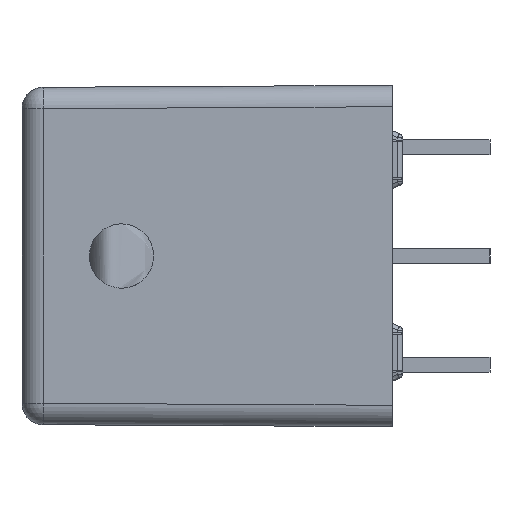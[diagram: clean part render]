
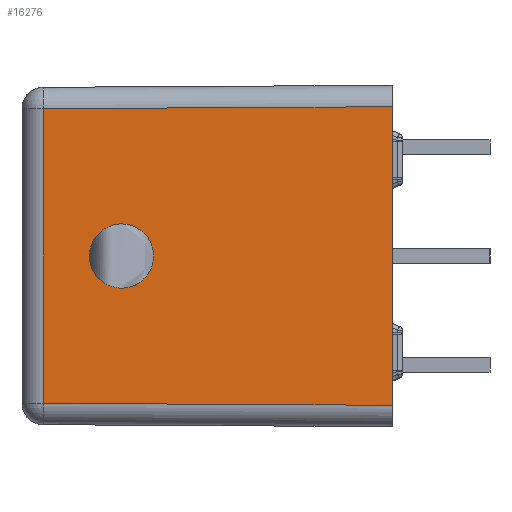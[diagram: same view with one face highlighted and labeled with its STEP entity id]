
A CAD part, left-side view. The second image highlights one B-rep face of the part: STEP entity #16276.
In plain terms, the highlighted planar face has unit normal (-1, 0.006, 0).
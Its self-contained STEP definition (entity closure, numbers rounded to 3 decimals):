
#194 = DIRECTION ( 'NONE',  ( 0., 0., -1. ) ) ;
#844 = ORIENTED_EDGE ( 'NONE', *, *, #24406, .F. ) ;
#1738 = FACE_OUTER_BOUND ( 'NONE', #25778, .T. ) ;
#3607 = EDGE_CURVE ( 'NONE', #22099, #16849, #11925, .T. ) ;
#4160 = DIRECTION ( 'NONE',  ( -1., 0.006, 0. ) ) ;
#7147 = VECTOR ( 'NONE', #19251, 1000. ) ;
#7396 = CARTESIAN_POINT ( 'NONE',  ( -28.925, 8.85, -6.975 ) ) ;
#7401 = ORIENTED_EDGE ( 'NONE', *, *, #24283, .T. ) ;
#7417 = CARTESIAN_POINT ( 'NONE',  ( -28.925, 8.85, 6.975 ) ) ;
#7873 = PLANE ( 'NONE',  #14508 ) ;
#8454 = DIRECTION ( 'NONE',  ( -0.006, -1., 0. ) ) ;
#8604 = CARTESIAN_POINT ( 'NONE',  ( -28.925, 8.85, 7.975 ) ) ;
#8905 = VECTOR ( 'NONE', #194, 1000. ) ;
#9537 = CARTESIAN_POINT ( 'NONE',  ( -28.925, 8.844, -6.975 ) ) ;
#11925 = LINE ( 'NONE', #9537, #20129 ) ;
#12420 = CARTESIAN_POINT ( 'NONE',  ( -28.834, 25.156, 7.975 ) ) ;
#13684 = CARTESIAN_POINT ( 'NONE',  ( -28.834, 25.156, 6.884 ) ) ;
#14508 = AXIS2_PLACEMENT_3D ( 'NONE', #27944, #4160, #8454 ) ;
#14560 = LINE ( 'NONE', #12420, #7147 ) ;
#16276 = ADVANCED_FACE ( 'NONE', ( #1738 ), #7873, .T. ) ;
#16849 = VERTEX_POINT ( 'NONE', #7396 ) ;
#16944 = ORIENTED_EDGE ( 'NONE', *, *, #3607, .T. ) ;
#16978 = DIRECTION ( 'NONE',  ( 0.006, 1., -0.006 ) ) ;
#17508 = CARTESIAN_POINT ( 'NONE',  ( -28.834, 25.156, -6.884 ) ) ;
#18407 = EDGE_CURVE ( 'NONE', #21107, #22099, #14560, .T. ) ;
#19109 = CARTESIAN_POINT ( 'NONE',  ( -28.925, 8.844, 6.975 ) ) ;
#19251 = DIRECTION ( 'NONE',  ( 0., 0., -1. ) ) ;
#20040 = VERTEX_POINT ( 'NONE', #7417 ) ;
#20096 = LINE ( 'NONE', #8604, #8905 ) ;
#20129 = VECTOR ( 'NONE', #20608, 1000. ) ;
#20608 = DIRECTION ( 'NONE',  ( -0.006, -1., -0.006 ) ) ;
#20696 = VECTOR ( 'NONE', #16978, 1000. ) ;
#21107 = VERTEX_POINT ( 'NONE', #13684 ) ;
#22099 = VERTEX_POINT ( 'NONE', #17508 ) ;
#24283 = EDGE_CURVE ( 'NONE', #20040, #21107, #28089, .T. ) ;
#24406 = EDGE_CURVE ( 'NONE', #20040, #16849, #20096, .T. ) ;
#25778 = EDGE_LOOP ( 'NONE', ( #7401, #27653, #16944, #844 ) ) ;
#27653 = ORIENTED_EDGE ( 'NONE', *, *, #18407, .T. ) ;
#27944 = CARTESIAN_POINT ( 'NONE',  ( -28.925, 8.85, 7.975 ) ) ;
#28089 = LINE ( 'NONE', #19109, #20696 ) ;
